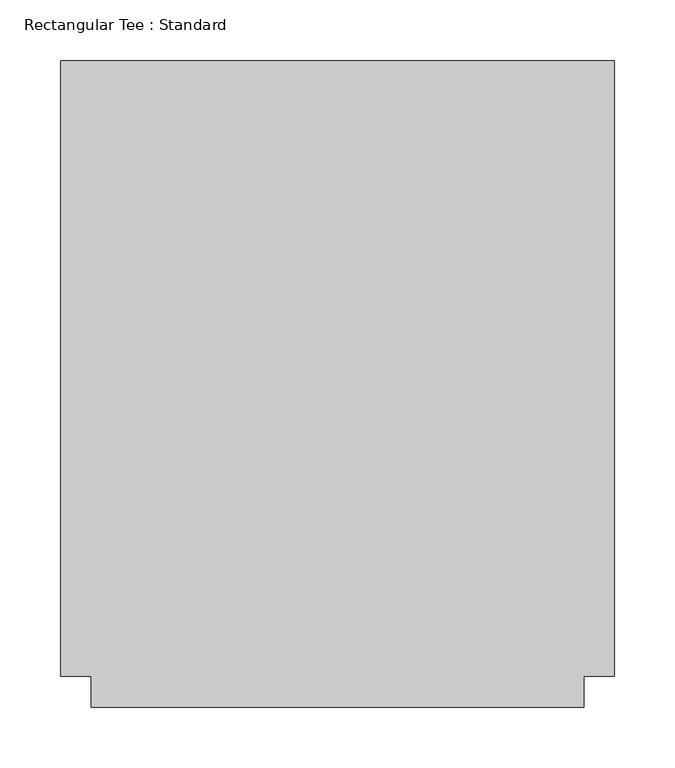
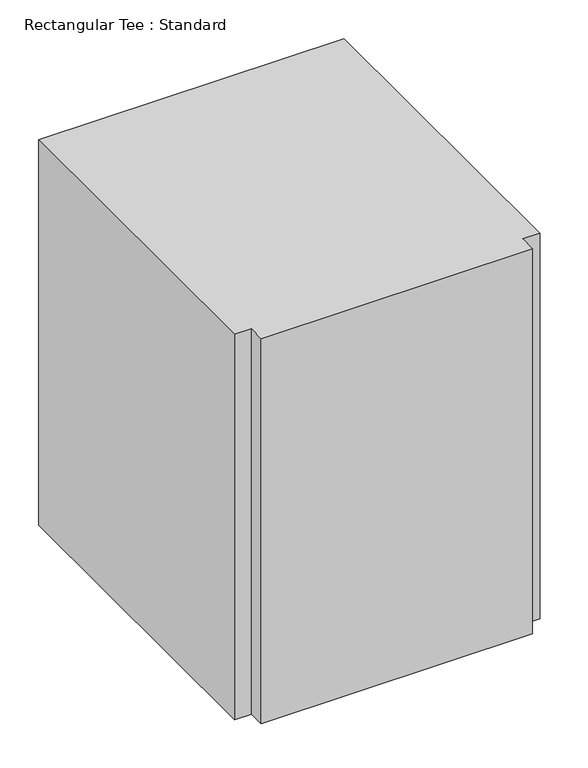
"""IFC4 building model written with IfcOpenShell, lengths in millimetres: duct fitting geometry, Rectangular Tee : Standard."""

from ifc_helpers import new_model, si_unit, frame, origin, place, context, project, spatial, polyline, outline, extrude, source, transform, mapped, element, save


def rectangular_tee_standard_b2181136(model_context):
    return source(origin(), model_context, "Body", "SweptSolid", [
        extrude(outline(polyline([(-228.6, -254.0), (-228.6, 254.0), (228.6, 254.0), (228.6, -254.0), (203.2, -254.0), (203.2, -279.4), (-203.2, -279.4), (-203.2, -254.0), (-228.6, -254.0)])), frame((0.0, 0.0, -304.8), z_axis=(0.0, 0.0, 1.0), x_axis=(1.0, 0.0, 0.0)), (0.0, 0.0, 1.0), 609.6),
    ])


if __name__ == "__main__":
    model = new_model("IFC4")
    model_context = context("Model", 3, world=origin())
    ifc_project = project(units=[si_unit("LENGTHUNIT", "METRE", prefix="MILLI")], contexts=[model_context])
    site = spatial("IfcSite", under=ifc_project)
    building = spatial("IfcBuilding", under=site)
    placement = place(None, origin())
    rectangular_tee_standard_shape = rectangular_tee_standard_b2181136(model_context)
    element("IfcDuctFitting", 1, ObjectType="Rectangular Tee : Standard", at=placement, inside=building, context=model_context, shape_type="MappedRepresentation", body=[
        mapped(rectangular_tee_standard_shape, transform((0.0, 0.0, 0.0), x_axis=(1.0, 0.0, 0.0), y_axis=(0.0, 1.0, 0.0), z_axis=(0.0, 0.0, 1.0))),
    ])
    save(model, "model.ifc")
